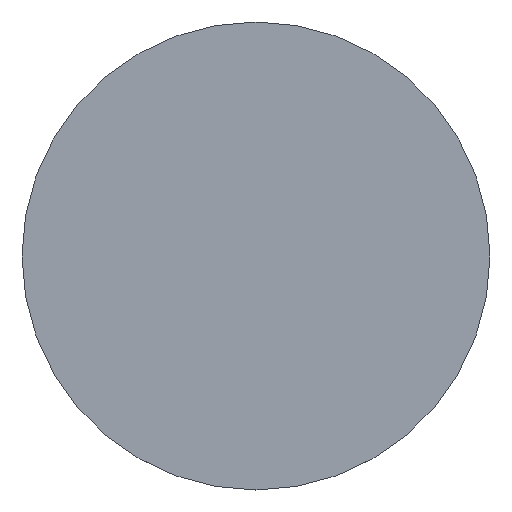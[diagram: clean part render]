
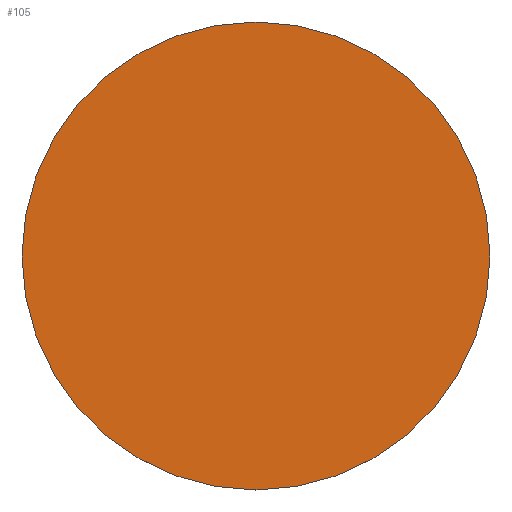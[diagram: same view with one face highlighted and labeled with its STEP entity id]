
A CAD part, top view. The second image highlights one B-rep face of the part: STEP entity #105.
In plain terms, the highlighted planar face has unit normal (0, 0, 1).
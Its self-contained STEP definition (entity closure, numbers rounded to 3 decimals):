
#21 = EDGE_CURVE('',#22,#22,#24,.T.);
#22 = VERTEX_POINT('',#23);
#23 = CARTESIAN_POINT('',(-340.,155.,327.));
#24 = SURFACE_CURVE('',#25,(#30,#42),.PCURVE_S1.);
#25 = CIRCLE('',#26,155.);
#26 = AXIS2_PLACEMENT_3D('',#27,#28,#29);
#27 = CARTESIAN_POINT('',(-495.,155.,327.));
#28 = DIRECTION('',(0.,0.,1.));
#29 = DIRECTION('',(1.,0.,-0.));
#30 = PCURVE('',#31,#36);
#31 = CYLINDRICAL_SURFACE('',#32,155.);
#32 = AXIS2_PLACEMENT_3D('',#33,#34,#35);
#33 = CARTESIAN_POINT('',(-495.,155.,324.));
#34 = DIRECTION('',(0.,0.,1.));
#35 = DIRECTION('',(1.,0.,-0.));
#36 = DEFINITIONAL_REPRESENTATION('',(#37),#41);
#37 = LINE('',#38,#39);
#38 = CARTESIAN_POINT('',(0.,3.));
#39 = VECTOR('',#40,1.);
#40 = DIRECTION('',(1.,0.));
#41 = ( GEOMETRIC_REPRESENTATION_CONTEXT(2) 
PARAMETRIC_REPRESENTATION_CONTEXT() REPRESENTATION_CONTEXT('2D SPACE',''
  ) );
#42 = PCURVE('',#43,#48);
#43 = PLANE('',#44);
#44 = AXIS2_PLACEMENT_3D('',#45,#46,#47);
#45 = CARTESIAN_POINT('',(-495.,155.,327.));
#46 = DIRECTION('',(0.,0.,1.));
#47 = DIRECTION('',(1.,0.,-0.));
#48 = DEFINITIONAL_REPRESENTATION('',(#49),#53);
#49 = CIRCLE('',#50,155.);
#50 = AXIS2_PLACEMENT_2D('',#51,#52);
#51 = CARTESIAN_POINT('',(0.,0.));
#52 = DIRECTION('',(1.,0.));
#53 = ( GEOMETRIC_REPRESENTATION_CONTEXT(2) 
PARAMETRIC_REPRESENTATION_CONTEXT() REPRESENTATION_CONTEXT('2D SPACE',''
  ) );
#105 = ADVANCED_FACE('',(#106),#43,.T.);
#106 = FACE_BOUND('',#107,.T.);
#107 = EDGE_LOOP('',(#108));
#108 = ORIENTED_EDGE('',*,*,#21,.T.);
